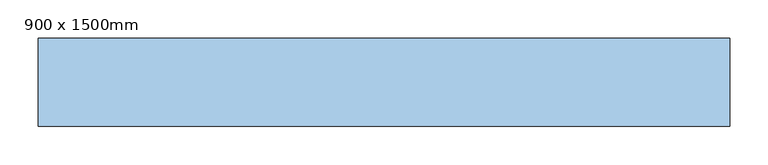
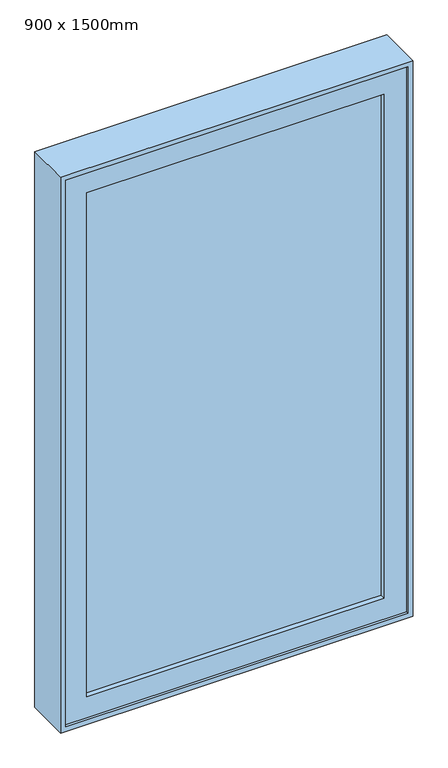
"""IFC4 building model written with IfcOpenShell, lengths in millimetres: window geometry, M_Okno, křídlo, samostatné levé : 900 x 1500mm."""

from ifc_helpers import new_model, si_unit, frame, origin, place, context, project, spatial, polyline, outline, extrude, faceted_brep, source, transform, mapped, element, save


def window_900_x_1500mm_75a88522(model_context):
    return source(origin(), model_context, "Body", "SolidModel", [
        faceted_brep([(418.25, -68.25, 2368.25), (-418.25, -68.25, 2368.25), (-418.25, -4.75, 2368.25), (418.25, -4.75, 2368.25), (437.3, -119.05, 2387.3), (-437.3, -119.05, 2387.3), (-437.3, -68.25, 2387.3), (437.3, -68.25, 2387.3), (450.0, -4.75, 2400.0), (-450.0, -4.75, 2400.0), (-450.0, -119.05, 2400.0), (450.0, -119.05, 2400.0), (-418.25, -68.25, 931.75), (-418.25, -4.75, 931.75), (-437.3, -119.05, 912.7), (-437.3, -68.25, 912.7), (-450.0, -4.75, 900.0), (-450.0, -119.05, 900.0), (418.25, -68.25, 931.75), (418.25, -4.75, 931.75), (437.3, -119.05, 912.7), (437.3, -68.25, 912.7), (450.0, -4.75, 900.0), (450.0, -119.05, 900.0)], [[[0, 1, 2, 3]], [[4, 5, 6, 7]], [[8, 9, 10, 11]], [[1, 12, 13, 2]], [[5, 14, 15, 6]], [[9, 16, 17, 10]], [[12, 18, 19, 13]], [[14, 20, 21, 15]], [[16, 22, 23, 17]], [[9, 8, 22, 16], [3, 2, 13, 19]], [[18, 0, 3, 19]], [[7, 6, 15, 21], [1, 0, 18, 12]], [[20, 4, 7, 21]], [[22, 8, 11, 23]], [[11, 10, 17, 23], [5, 4, 20, 14]]]),
        extrude(outline(polyline([(2387.3, 437.3), (2387.3, -437.3), (912.7, -437.3), (912.7, 437.3), (2387.3, 437.3)]), holes=[polyline([(2330.15, -380.15), (2330.15, 380.15), (969.85, 380.15), (969.85, -380.15), (2330.15, -380.15)])]), frame((0.0, -112.7, 0.0), z_axis=(0.0, 1.0, 0.0), x_axis=(0.0, 0.0, 1.0)), (0.0, 0.0, 1.0), 44.45),
        extrude(outline(polyline([(380.15, -100.0), (-380.15, -100.0), (-380.15, -93.65), (380.15, -93.65), (380.15, -100.0)])), frame((0.0, 0.0, 969.85), z_axis=(0.0, 0.0, 1.0), x_axis=(1.0, 0.0, 0.0)), (0.0, 0.0, 1.0), 1360.3),
        extrude(outline(polyline([(-380.15, -80.95), (380.15, -80.95), (380.15, -87.3), (-380.15, -87.3), (-380.15, -80.95)])), frame((0.0, 0.0, 969.85), z_axis=(0.0, 0.0, 1.0), x_axis=(1.0, 0.0, 0.0)), (0.0, 0.0, 1.0), 1360.3),
    ])


if __name__ == "__main__":
    model = new_model("IFC4")
    model_context = context("Model", 3, world=origin())
    ifc_project = project(units=[si_unit("LENGTHUNIT", "METRE", prefix="MILLI")], contexts=[model_context])
    site = spatial("IfcSite", under=ifc_project)
    building = spatial("IfcBuilding", under=site)
    placement = place(None, origin())
    window_900_x_1500mm_shape = window_900_x_1500mm_75a88522(model_context)
    element("IfcWindow", 1, ObjectType="M_Okno, křídlo, samostatné levé : 900 x 1500mm", at=placement, inside=building, context=model_context, shape_type="MappedRepresentation", body=[
        mapped(window_900_x_1500mm_shape, transform((0.0, 0.0, 0.0), x_axis=(1.0, 0.0, 0.0), y_axis=(0.0, 1.0, 0.0), z_axis=(0.0, 0.0, 1.0))),
    ])
    save(model, "model.ifc")
